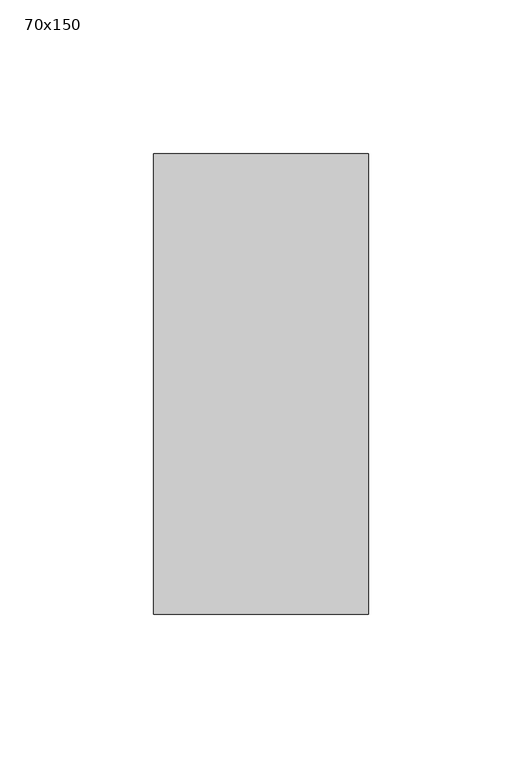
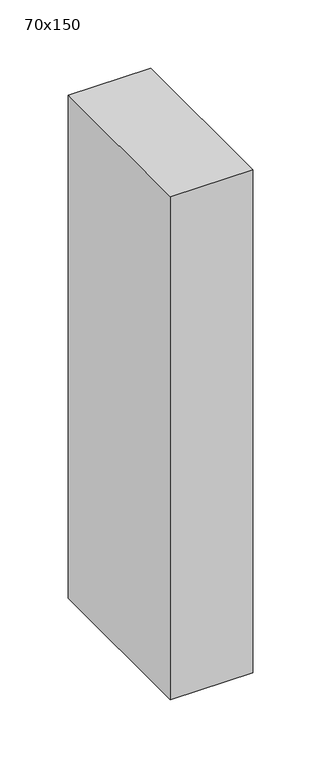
"""IFC4 building model written with IfcOpenShell, lengths in millimetres: member geometry, 長方形のマリオン : 70x150."""

import ifcopenshell
import ifcopenshell.guid

model = None  # the IFC model being written
_history = None  # IfcOwnerHistory: only IFC2X3 demands one
_inside = {}  # id of a spatial element -> (the spatial element, [elements in it])
_under = {}  # id of a project, library or spatial element -> (it, [spatial elements below it])
_declared = {}  # id of a project -> (the project, [libraries it declares])
_typed = {}  # id of a type object -> (the type object, [elements of that type])
_made_of = {}  # id of a material, layer set ... -> (it, [elements and type objects made of it])


def new_model(schema):
    """Start an empty IFC model of exactly this schema.

    Asked for "IFC4X3", IfcOpenShell would pick the latest addendum, in which some entities
    have other attributes; the version numbers below select the first issue.
    IFC2X3 requires an IfcOwnerHistory on every rooted entity: one is made here for all.
    """
    global model, _history
    if schema == "IFC4X3":
        model = ifcopenshell.file(schema_version=(4, 3, 0, 0))
    else:
        model = ifcopenshell.file(schema=schema)
    _inside.clear()
    _under.clear()
    _declared.clear()
    _typed.clear()
    _made_of.clear()
    _history = None
    if model.schema == "IFC2X3":
        org = make("IfcOrganization", Name="unknown")
        user = make(
            "IfcPersonAndOrganization",
            ThePerson=make("IfcPerson", FamilyName="unknown"),
            TheOrganization=org,
        )
        app = make(
            "IfcApplication",
            ApplicationDeveloper=org,
            Version="unknown",
            ApplicationFullName="unknown",
            ApplicationIdentifier="unknown",
        )
        _history = make(
            "IfcOwnerHistory",
            OwningUser=user,
            OwningApplication=app,
            ChangeAction="ADDED",
            CreationDate=0,
        )
    return model


def make(cls, **values):
    """One entity of the class cls with the attributes given. An attribute that is None is left unset."""
    return model.create_entity(
        cls, **{name: value for name, value in values.items() if value is not None}
    )


def rooted(cls, **values):
    """An entity with a GlobalId (a new one), such as an element, a storey or a relation."""
    return make(cls, GlobalId=ifcopenshell.guid.new(), OwnerHistory=_history, **values)


def si_unit(unit_type, name, prefix=None):
    """IfcSIUnit, for example si_unit("LENGTHUNIT", "METRE", prefix="MILLI")."""
    return make("IfcSIUnit", UnitType=unit_type, Prefix=prefix, Name=name)


def assignment(units):
    """IfcUnitAssignment: the units of a project."""
    return None if units is None else make("IfcUnitAssignment", Units=units)


def point(xyz):
    """IfcCartesianPoint."""
    return None if xyz is None else make("IfcCartesianPoint", Coordinates=xyz)


def direction(xyz):
    """IfcDirection."""
    return None if xyz is None else make("IfcDirection", DirectionRatios=xyz)


def frame(location, z_axis=None, x_axis=None):
    """IfcAxis2Placement3D, a coordinate frame: its origin and axes. An axis left out is left unset."""
    return make(
        "IfcAxis2Placement3D",
        Location=point(location),
        Axis=direction(z_axis),
        RefDirection=direction(x_axis),
    )


def origin():
    """The frame at (0, 0, 0) with its axes left unset."""
    return frame((0.0, 0.0, 0.0))


def place(relative_to, where):
    """IfcLocalPlacement: puts the frame where relative to a parent placement (None: the world)."""
    return make(
        "IfcLocalPlacement", PlacementRelTo=relative_to, RelativePlacement=where
    )


def context(
    kind, dimensions, precision=None, world=None, true_north=None, identifier=None
):
    """IfcGeometricRepresentationContext, for example the 3D "Model" context."""
    return make(
        "IfcGeometricRepresentationContext",
        ContextIdentifier=identifier,
        ContextType=kind,
        CoordinateSpaceDimension=dimensions,
        Precision=precision,
        WorldCoordinateSystem=world,
        TrueNorth=true_north,
    )


def project(units=None, contexts=None):
    """IfcProject with its units and contexts."""
    return rooted(
        "IfcProject",
        Name="project",
        RepresentationContexts=contexts,
        UnitsInContext=assignment(units),
    )


def spatial(cls, under=None, at=None, **own):
    """A site, building, storey or space (cls), placed at a placement, below another one or the project."""
    s = rooted(cls, ObjectPlacement=at, **own)
    if under is not None:
        _under.setdefault(under.id(), (under, []))[1].append(s)
    return s


def polyline(points):
    """IfcPolyline through the points."""
    return make("IfcPolyline", Points=[point(p) for p in points])


def outline(outer, holes=None, kind="AREA"):
    """IfcArbitraryClosedProfileDef: a profile drawn as a closed curve; with holes, ...WithVoids."""
    if holes is None:
        return make("IfcArbitraryClosedProfileDef", ProfileType=kind, OuterCurve=outer)
    return make(
        "IfcArbitraryProfileDefWithVoids",
        ProfileType=kind,
        OuterCurve=outer,
        InnerCurves=holes,
    )


def extrude(swept, where, along, depth):
    """IfcExtrudedAreaSolid: the profile swept, set in the frame where, extruded along a direction by depth."""
    return make(
        "IfcExtrudedAreaSolid",
        SweptArea=swept,
        Position=where,
        ExtrudedDirection=direction(along),
        Depth=depth,
    )


def shape(context_of_items, identifier, shape_type, items):
    """IfcShapeRepresentation: the items that make up one representation, for example the "Body"."""
    return make(
        "IfcShapeRepresentation",
        ContextOfItems=context_of_items,
        RepresentationIdentifier=identifier,
        RepresentationType=shape_type,
        Items=items,
    )


def source(mapping_origin, context_of_items, identifier, shape_type, items):
    """IfcRepresentationMap: a shape defined once, which mapped items show again and again."""
    return make(
        "IfcRepresentationMap",
        MappingOrigin=mapping_origin,
        MappedRepresentation=shape(context_of_items, identifier, shape_type, items),
    )


def transform(
    local_origin,
    x_axis=None,
    y_axis=None,
    z_axis=None,
    scale=None,
    scale2=None,
    scale3=None,
    uniform=True,
):
    """IfcCartesianTransformationOperator3D, or its non-uniform kind. x_axis, y_axis, z_axis: its Axis1, 2, 3."""
    if uniform:
        return make(
            "IfcCartesianTransformationOperator3D",
            Axis1=direction(x_axis),
            Axis2=direction(y_axis),
            LocalOrigin=point(local_origin),
            Scale=scale,
            Axis3=direction(z_axis),
        )
    return make(
        "IfcCartesianTransformationOperator3DnonUniform",
        Axis1=direction(x_axis),
        Axis2=direction(y_axis),
        LocalOrigin=point(local_origin),
        Scale=scale,
        Axis3=direction(z_axis),
        Scale2=scale2,
        Scale3=scale3,
    )


def mapped(mapping_source, mapping_target):
    """IfcMappedItem: shows the shape of a source again, moved by a transform."""
    return make(
        "IfcMappedItem", MappingSource=mapping_source, MappingTarget=mapping_target
    )


def made_of(thing, what):
    """Note that an element or type object is made of a material, layer set ...; save() writes the relation."""
    if what is not None:
        _made_of.setdefault(what.id(), (what, []))[1].append(thing)
    return thing


def element(
    cls,
    number,
    at=None,
    inside=None,
    cuts=None,
    type_object=None,
    material=None,
    context=None,
    identifier="Body",
    shape_type=None,
    held_by="IfcProductDefinitionShape",
    body=None,
    shapes=None,
    **own,
):
    """One element of the class cls, such as IfcWall. Its Tag is "e" and its number.

    at: its placement. inside: the storey or other place that contains it. cuts: it is an
    opening in that element (IfcRelVoidsElement). A single representation is given by context,
    identifier, shape_type and body (its items); several are given by shapes. held_by: the class
    of the entity that holds the representations. save() writes the other relations.
    """
    e = rooted(cls, Tag="e%d" % number, ObjectPlacement=at, **own)
    if body is not None:
        shapes = [shape(context, identifier, shape_type, body)]
    if shapes is not None:
        e.Representation = make(held_by, Representations=shapes)
    if inside is not None:
        _inside.setdefault(inside.id(), (inside, []))[1].append(e)
    if cuts is not None:
        rooted(
            "IfcRelVoidsElement", RelatingBuildingElement=cuts, RelatedOpeningElement=e
        )
    if type_object is not None:
        _typed.setdefault(type_object.id(), (type_object, []))[1].append(e)
    return made_of(e, material)


def aggregate(whole, parts):
    """IfcRelAggregates: a whole, such as a stair, and the parts it consists of."""
    return rooted("IfcRelAggregates", RelatingObject=whole, RelatedObjects=parts)


def save(model, path):
    """Write the relations noted so far, then the file.

    IfcRelAggregates (storeys below a building ...), IfcRelContainedInSpatialStructure (elements
    in a storey), IfcRelDefinesByType, IfcRelAssociatesMaterial and IfcRelDeclares: one each for
    every whole, place, type object, material and project.
    """
    for whole, parts in _under.values():
        aggregate(whole, parts)
    for where, things in _inside.values():
        rooted(
            "IfcRelContainedInSpatialStructure",
            RelatedElements=things,
            RelatingStructure=where,
        )
    for kind, things in _typed.values():
        rooted("IfcRelDefinesByType", RelatedObjects=things, RelatingType=kind)
    for what, things in _made_of.values():
        rooted("IfcRelAssociatesMaterial", RelatedObjects=things, RelatingMaterial=what)
    for by, libraries in _declared.values():
        rooted("IfcRelDeclares", RelatingContext=by, RelatedDefinitions=libraries)
    model.write(path)


def member_70x150_98b0aed0(model_context):
    return source(origin(), model_context, "Body", "SweptSolid", [
        extrude(outline(polyline([(0.0, 75.0), (0.0, -75.0), (-70.0, -75.0), (-70.0, 75.0), (0.0, 75.0)])), frame((0.0, 0.0, -451.131963), z_axis=(0.0, 0.0, 1.0), x_axis=(1.0, 0.0, 0.0)), (0.0, 0.0, 1.0), 451.131963),
    ])


if __name__ == "__main__":
    model = new_model("IFC4")
    model_context = context("Model", 3, world=origin())
    ifc_project = project(units=[si_unit("LENGTHUNIT", "METRE", prefix="MILLI")], contexts=[model_context])
    site = spatial("IfcSite", under=ifc_project)
    building = spatial("IfcBuilding", under=site)
    placement = place(None, origin())
    member_70x150_shape = member_70x150_98b0aed0(model_context)
    element("IfcMember", 1, ObjectType="長方形のマリオン : 70x150", at=placement, inside=building, context=model_context, shape_type="MappedRepresentation", body=[
        mapped(member_70x150_shape, transform((0.0, 0.0, 0.0), x_axis=(1.0, 0.0, 0.0), y_axis=(0.0, 1.0, 0.0), z_axis=(0.0, 0.0, 1.0))),
    ])
    save(model, "model.ifc")
